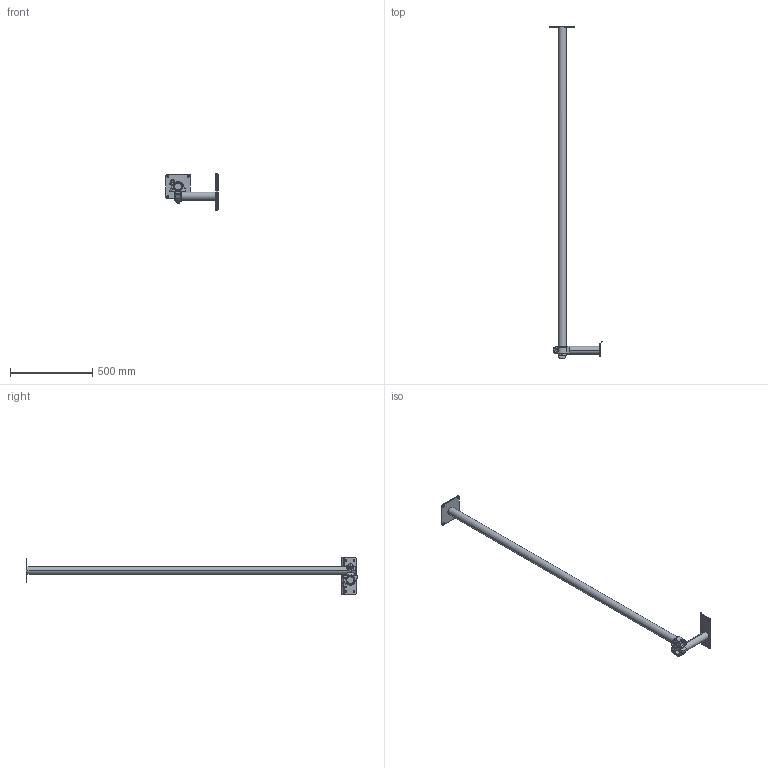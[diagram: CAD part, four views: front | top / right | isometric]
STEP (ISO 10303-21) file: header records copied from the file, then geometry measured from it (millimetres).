
FILE_DESCRIPTION((''),'2;1');
FILE_NAME('130-265_ASM','2022-07-07T15:30:57',('SYSTEM'),(''),'CREO PARAMETRIC BY PTC INC, 2018260','CREO PARAMETRIC BY PTC INC, 2018260','');
FILE_SCHEMA(('CONFIG_CONTROL_DESIGN'));
Length unit declared in the file: millimetre
Products named in the file (9): 130-201_PRT; 136085_PRT; 130-205_ASM; APS_LAYHERKOPPLING-546_PRT; 136900_ASM; 130-252_PRT; 130-254_PRT; 130-250_ASM; 130-265_ASM
Assembly tree (9 placements, depth 3):
  130-265_ASM
    130-205_ASM
      130-201_PRT
      136085_PRT
    136900_ASM
      APS_LAYHERKOPPLING-546_PRT  x2
    130-250_ASM
      130-252_PRT
      130-254_PRT
Bounding box: 318.93 x 2023 x 220 mm (x, y, z)
Volume: 1418320.2 mm3; surface area: 778658 mm2
Topology: 6 solids, 6 shells, 188 faces, 484 edges, 300 vertices
Faces by surface type: cylinder 92, plane 60, torus 20, bspline 8, sphere 8
Entity records: 4350 total; most frequent: CARTESIAN_POINT 1070, DIRECTION 703, ORIENTED_EDGE 618, EDGE_CURVE 309, AXIS2_PLACEMENT_3D 279, VERTEX_POINT 196, EDGE_LOOP 149, VECTOR 145
